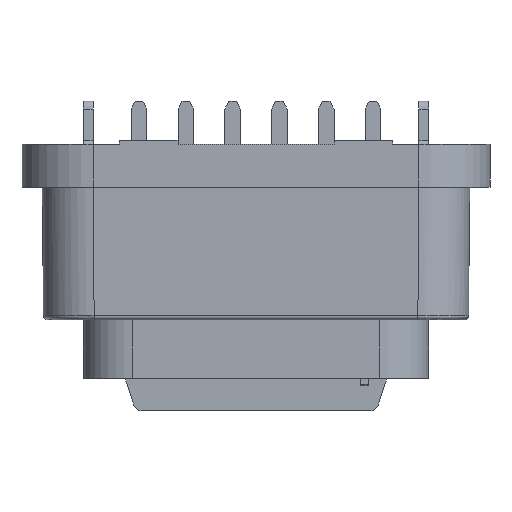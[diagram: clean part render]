
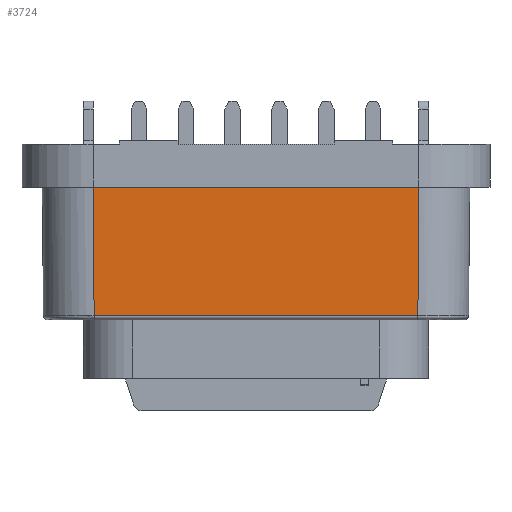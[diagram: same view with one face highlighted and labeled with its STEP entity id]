
A CAD part, front view. The second image highlights one B-rep face of the part: STEP entity #3724.
In plain terms, the highlighted planar face has unit normal (0, -1, -0.009).
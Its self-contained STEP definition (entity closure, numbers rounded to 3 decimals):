
#635=CARTESIAN_POINT('',(-3.573,-1.58,10.609));
#690=DIRECTION('',(-1.,0.,0.));
#691=VECTOR('',#690,8.301);
#692=CARTESIAN_POINT('',(4.727,-1.58,10.609));
#693=LINE('',#692,#691);
#694=DIRECTION('',(-0.009,-0.009,1.));
#695=VECTOR('',#694,3.301);
#696=CARTESIAN_POINT('',(-3.573,-1.58,10.609));
#697=LINE('',#696,#695);
#698=DIRECTION('',(1.,0.,0.));
#699=VECTOR('',#698,8.359);
#700=CARTESIAN_POINT('',(-3.602,-1.609,13.91));
#701=LINE('',#700,#699);
#702=DIRECTION('',(-0.009,0.009,-1.));
#703=VECTOR('',#702,3.301);
#704=CARTESIAN_POINT('',(4.756,-1.609,13.91));
#705=LINE('',#704,#703);
#744=CARTESIAN_POINT('',(4.756,-1.609,13.91));
#2316=VERTEX_POINT('',#744);
#2317=CARTESIAN_POINT('',(-3.602,-1.609,13.91));
#2318=VERTEX_POINT('',#2317);
#2378=VERTEX_POINT('',#635);
#2379=CARTESIAN_POINT('',(4.727,-1.58,10.609));
#2380=VERTEX_POINT('',#2379);
#3712=CARTESIAN_POINT('',(0.577,-1.589,11.71));
#3713=DIRECTION('',(0.,-1.,-0.009));
#3714=DIRECTION('',(0.,-0.009,1.));
#3715=AXIS2_PLACEMENT_3D('',#3712,#3713,#3714);
#3716=PLANE('',#3715);
#3717=ORIENTED_EDGE('',*,*,#3594,.T.);
#3718=ORIENTED_EDGE('',*,*,#3623,.T.);
#3720=ORIENTED_EDGE('',*,*,#3719,.T.);
#3721=ORIENTED_EDGE('',*,*,#3704,.T.);
#3722=EDGE_LOOP('',(#3717,#3718,#3720,#3721));
#3723=FACE_OUTER_BOUND('',#3722,.F.);
#3724=ADVANCED_FACE('',(#3723),#3716,.T.);
#3594=EDGE_CURVE('',#2380,#2378,#693,.T.);
#3623=EDGE_CURVE('',#2378,#2318,#697,.T.);
#3704=EDGE_CURVE('',#2316,#2380,#705,.T.);
#3719=EDGE_CURVE('',#2318,#2316,#701,.T.);
